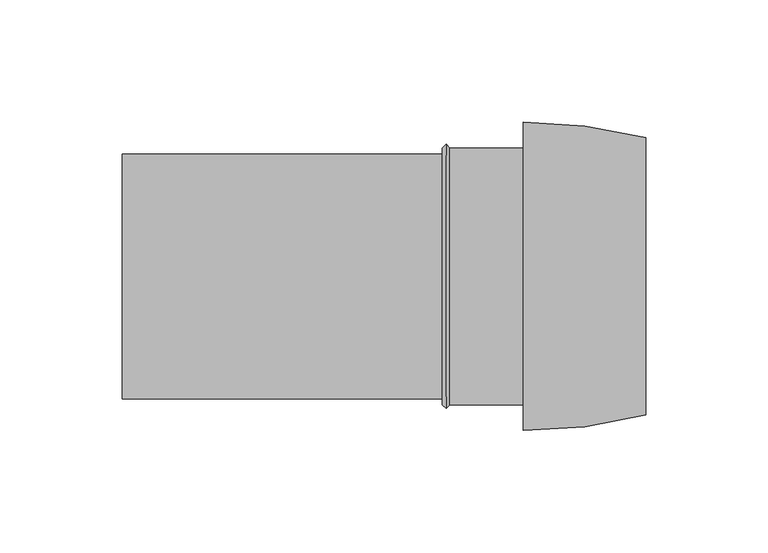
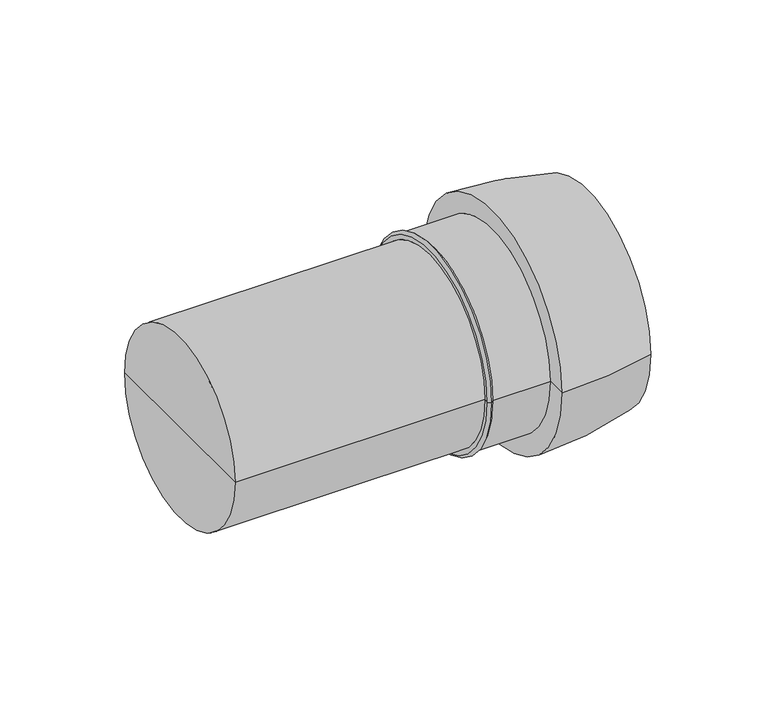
"""IFC4 building model written with IfcOpenShell, lengths in millimetres: duct segment geometry, NLRS_57_AIR_DUF_Easysafe verl pijp PP_M&G : Easysafe verlengpijp."""

from ifc_helpers import new_model, si_unit, point, frame, origin, place, context, project, spatial, polyline, circle_curve, ellipse_curve, trimmed, source, transform, mapped, element, save
from ifc_brep_helpers import plane_surface, cylinder_surface, revolved_surface, advanced_brep


def duct_segment_f60221c1(model_context):
    return source(origin(), model_context, "Body", "AdvancedBrep", [
        advanced_brep(
        [(0.0, 0.0, 0.0), (0.0, 50.0, 0.0), (0.0, -50.0, 0.0), (163.677412, -63.0, 0.0), (163.677412, 63.0, 0.0), (213.677412, 56.6491673, 0.0), (213.677412, -56.6491673, 0.0), (163.677412, -52.5, 0.0), (163.677412, 52.5, 0.0), (133.677412, -52.5, 0.0), (133.677412, 52.5, 0.0), (130.677412, 50.0, 0.0), (130.677412, -50.0, 0.0), (213.677412, 50.0, 0.0), (213.677412, -50.0, 0.0), (132.177412, -54.0, 0.0), (132.177412, 54.0, 0.0), (130.677412, -52.5, 0.0), (130.677412, 52.5, 0.0), (163.677412, -50.0, 0.0), (163.677412, 50.0, 0.0), (163.677412, 0.0, 0.0)],
        [
            (0, 1),
            (1, 2, circle_curve(frame((0.0, 0.0, 0.0), z_axis=(-1.0, 0.0, 0.0), x_axis=(0.0, 1.0, 0.0)), 50.0)),
            (2, 0),
            (2, 1, circle_curve(frame((0.0, 0.0, 0.0), z_axis=(-1.0, 0.0, 0.0), x_axis=(0.0, 1.0, 0.0)), 50.0)),
            (3, 4, circle_curve(frame((163.677412, 0.0, 0.0), z_axis=(1.0, 0.0, 0.0), x_axis=(0.0, 1.0, 0.0)), 63.0)),
            (4, 5, circle_curve(frame((163.677412, -137.0, 0.0), z_axis=(0.0, 0.0, -1.0), x_axis=(1.0, 0.0, 0.0)), 200.0)),
            (5, 6, circle_curve(frame((213.677412, 0.0, 0.0), z_axis=(-1.0, 0.0, 0.0), x_axis=(0.0, 1.0, 0.0)), 56.6491673)),
            (6, 3, circle_curve(frame((163.677412, 137.0, 0.0), z_axis=(0.0, 0.0, -1.0), x_axis=(1.0, 0.0, 0.0)), 200.0)),
            (4, 3, circle_curve(frame((163.677412, 0.0, 0.0), z_axis=(1.0, 0.0, 0.0), x_axis=(0.0, 1.0, 0.0)), 63.0)),
            (6, 5, circle_curve(frame((213.677412, 0.0, 0.0), z_axis=(-1.0, 0.0, 0.0), x_axis=(0.0, 1.0, 0.0)), 56.6491673)),
            (7, 8, circle_curve(frame((163.677412, 0.0, 0.0), z_axis=(1.0, 0.0, 0.0), x_axis=(0.0, 1.0, 0.0)), 52.5)),
            (8, 4),
            (3, 7),
            (8, 7, circle_curve(frame((163.677412, 0.0, 0.0), z_axis=(1.0, 0.0, 0.0), x_axis=(0.0, 1.0, 0.0)), 52.5)),
            (9, 10, circle_curve(frame((133.677412, 0.0, 0.0), z_axis=(1.0, 0.0, 0.0), x_axis=(0.0, 1.0, 0.0)), 52.5)),
            (10, 8),
            (7, 9),
            (10, 9, circle_curve(frame((133.677412, 0.0, 0.0), z_axis=(1.0, 0.0, 0.0), x_axis=(0.0, 1.0, 0.0)), 52.5)),
            (1, 11),
            (11, 12, circle_curve(frame((130.677412, 0.0, 0.0), z_axis=(-1.0, 0.0, 0.0), x_axis=(0.0, 1.0, 0.0)), 50.0)),
            (12, 2),
            (12, 11, circle_curve(frame((130.677412, 0.0, 0.0), z_axis=(-1.0, 0.0, 0.0), x_axis=(0.0, 1.0, 0.0)), 50.0)),
            (5, 13),
            (13, 14, circle_curve(frame((213.677412, 0.0, 0.0), z_axis=(-1.0, 0.0, 0.0), x_axis=(0.0, 1.0, 0.0)), 50.0)),
            (14, 6),
            (14, 13, circle_curve(frame((213.677412, 0.0, 0.0), z_axis=(-1.0, 0.0, 0.0), x_axis=(0.0, 1.0, 0.0)), 50.0)),
            (15, 16, circle_curve(frame((132.177412, 0.0, 0.0), z_axis=(1.0, 0.0, 0.0), x_axis=(0.0, 1.0, 0.0)), 54.0)),
            (16, 10),
            (9, 15),
            (16, 15, circle_curve(frame((132.177412, 0.0, 0.0), z_axis=(1.0, 0.0, 0.0), x_axis=(0.0, 1.0, 0.0)), 54.0)),
            (17, 18, circle_curve(frame((130.677412, 0.0, 0.0), z_axis=(1.0, 0.0, 0.0), x_axis=(0.0, 1.0, 0.0)), 52.5)),
            (18, 16),
            (15, 17),
            (18, 17, circle_curve(frame((130.677412, 0.0, 0.0), z_axis=(1.0, 0.0, 0.0), x_axis=(0.0, 1.0, 0.0)), 52.5)),
            (11, 18),
            (17, 12),
            (19, 20, circle_curve(frame((163.677412, 0.0, 0.0), z_axis=(1.0, 0.0, 0.0), x_axis=(0.0, 1.0, 0.0)), 50.0)),
            (20, 21),
            (21, 19),
            (20, 19, circle_curve(frame((163.677412, 0.0, 0.0), z_axis=(1.0, 0.0, 0.0), x_axis=(0.0, 1.0, 0.0)), 50.0)),
            (13, 20),
            (19, 14),
        ],
        [
            plane_surface(frame((0.0, 0.0, 0.0), z_axis=(-1.0, 0.0, 0.0), x_axis=(0.0, 1.0, 0.0))),
            revolved_surface(trimmed(ellipse_curve(frame((163.677412, -137.0, 0.0), z_axis=(0.0, 0.0, 1.0), x_axis=(1.0, 0.0, 0.0)), 200.0, 200.0), [point((213.677412, 56.6491673, 0.0))], [point((163.677412, 63.0, 0.0))], True, "CARTESIAN"), (-500.0, 0.0, 0.0), (-1.0, 0.0, 0.0)),
            plane_surface(frame((163.677412, 0.0, 0.0), z_axis=(-1.0, 0.0, 0.0), x_axis=(0.0, 1.0, 0.0))),
            cylinder_surface(frame((-500.0, 0.0, 0.0), z_axis=(-1.0, 0.0, 0.0), x_axis=(0.0, 1.0, 0.0)), 52.5),
            cylinder_surface(frame((-500.0, 0.0, 0.0), z_axis=(-1.0, 0.0, 0.0), x_axis=(0.0, 1.0, 0.0)), 50.0),
            plane_surface(frame((213.677412, 0.0, 0.0), z_axis=(1.0, 0.0, 0.0), x_axis=(0.0, 1.0, 0.0))),
            revolved_surface(polyline([(133.677412, 52.5, 0.0), (132.177412, 54.0, 0.0)]), (-500.0, 0.0, 0.0), (-1.0, 0.0, 0.0)),
            revolved_surface(polyline([(132.177412, 54.0, 0.0), (130.677412, 52.5, 0.0)]), (-500.0, 0.0, 0.0), (-1.0, 0.0, 0.0)),
            plane_surface(frame((130.677412, 0.0, 0.0), z_axis=(-1.0, 0.0, 0.0), x_axis=(0.0, 1.0, 0.0))),
            plane_surface(frame((163.677412, 0.0, 0.0), z_axis=(1.0, 0.0, 0.0), x_axis=(0.0, 1.0, 0.0))),
            revolved_surface(polyline([(163.677412, 50.0, 0.0), (213.677412, 50.0, 0.0)]), (-500.0, 0.0, 0.0), (-1.0, 0.0, 0.0)),
        ],
        [
            (0, [[1, 2, 3]]),
            (0, [[-3, 4, -1]]),
            (1, [[5, 6, 7, 8]]),
            (1, [[9, -8, 10, -6]]),
            (2, [[11, 12, -5, 13]]),
            (2, [[14, -13, -9, -12]]),
            (3, [[15, 16, -11, 17]]),
            (3, [[18, -17, -14, -16]]),
            (4, [[-2, 19, 20, 21]]),
            (4, [[-4, -21, 22, -19]]),
            (5, [[-7, 23, 24, 25]]),
            (5, [[-10, -25, 26, -23]]),
            (6, [[27, 28, -15, 29]]),
            (6, [[30, -29, -18, -28]]),
            (7, [[31, 32, -27, 33]]),
            (7, [[34, -33, -30, -32]]),
            (8, [[-20, 35, -31, 36]]),
            (8, [[-22, -36, -34, -35]]),
            (9, [[37, 38, 39]]),
            (9, [[40, -39, -38]]),
            (10, [[-24, 41, -37, 42]]),
            (10, [[-26, -42, -40, -41]]),
        ],
    ),
    ])


if __name__ == "__main__":
    model = new_model("IFC4")
    model_context = context("Model", 3, world=origin())
    ifc_project = project(units=[si_unit("LENGTHUNIT", "METRE", prefix="MILLI")], contexts=[model_context])
    site = spatial("IfcSite", under=ifc_project)
    building = spatial("IfcBuilding", under=site)
    placement = place(None, origin())
    duct_segment_shape = duct_segment_f60221c1(model_context)
    element("IfcDuctSegment", 1, ObjectType="NLRS_57_AIR_DUF_Easysafe verl pijp PP_M&G : Easysafe verlengpijp", at=placement, inside=building, context=model_context, shape_type="MappedRepresentation", body=[
        mapped(duct_segment_shape, transform((0.0, 0.0, 0.0), x_axis=(1.0, 0.0, 0.0), y_axis=(0.0, 1.0, 0.0), z_axis=(0.0, 0.0, 1.0))),
    ])
    save(model, "model.ifc")
